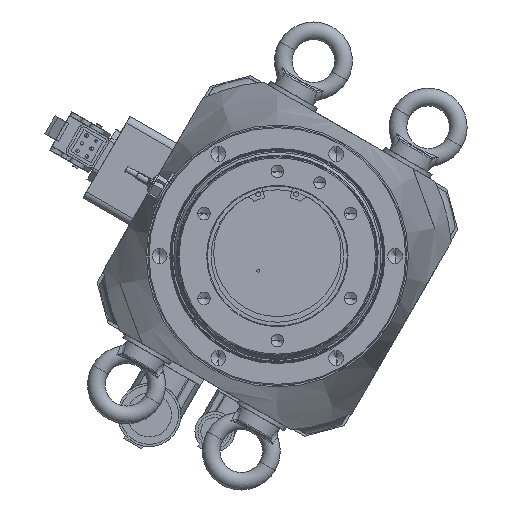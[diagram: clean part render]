
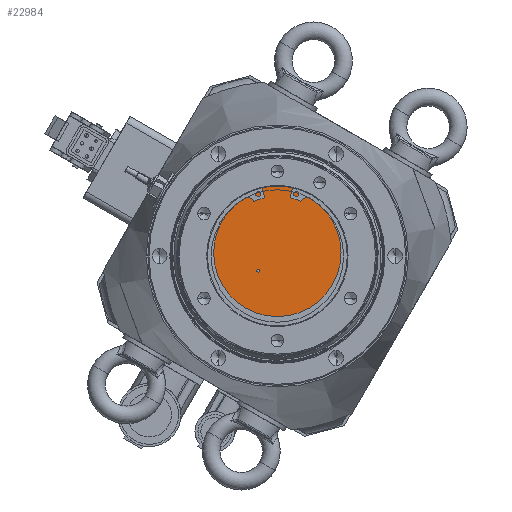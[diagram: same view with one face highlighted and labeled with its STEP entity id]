
A CAD part, front view. The second image highlights one B-rep face of the part: STEP entity #22984.
In plain terms, the highlighted planar face has unit normal (0, -1, 0).
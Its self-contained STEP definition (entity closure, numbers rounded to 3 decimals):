
#322 = DIRECTION ( 'NONE',  ( 0., 1., 0. ) ) ;
#3029 = ORIENTED_EDGE ( 'NONE', *, *, #16862, .T. ) ;
#3249 = VERTEX_POINT ( 'NONE', #22755 ) ;
#4009 = CARTESIAN_POINT ( 'NONE',  ( 55.209, -290.221, 181.909 ) ) ;
#4978 = EDGE_LOOP ( 'NONE', ( #26720, #41825 ) ) ;
#5352 = DIRECTION ( 'NONE',  ( 0., 1., 0. ) ) ;
#5875 = VERTEX_POINT ( 'NONE', #4009 ) ;
#7695 = VERTEX_POINT ( 'NONE', #48649 ) ;
#12411 = DIRECTION ( 'NONE',  ( 0., 0., 1. ) ) ;
#13088 = EDGE_CURVE ( 'NONE', #7695, #5875, #25204, .T. ) ;
#14626 = EDGE_CURVE ( 'NONE', #3249, #38106, #17434, .T. ) ;
#15623 = DIRECTION ( 'NONE',  ( 0., 1., 0. ) ) ;
#15711 = FACE_OUTER_BOUND ( 'NONE', #4978, .T. ) ;
#16862 = EDGE_CURVE ( 'NONE', #38106, #3249, #22626, .T. ) ;
#17434 = CIRCLE ( 'NONE', #47728, 1. ) ;
#17530 = AXIS2_PLACEMENT_3D ( 'NONE', #27366, #34913, #12411 ) ;
#19210 = DIRECTION ( 'NONE',  ( 0., 1., 0. ) ) ;
#22252 = CIRCLE ( 'NONE', #39559, 47.5 ) ;
#22626 = CIRCLE ( 'NONE', #24195, 1. ) ;
#22755 = CARTESIAN_POINT ( 'NONE',  ( 42.239, -290.221, 123.416 ) ) ;
#22762 = CARTESIAN_POINT ( 'NONE',  ( 42.239, -290.221, 124.416 ) ) ;
#22984 = ADVANCED_FACE ( 'NONE', ( #15711, #35688 ), #42328, .F. ) ;
#24195 = AXIS2_PLACEMENT_3D ( 'NONE', #41699, #19210, #45470 ) ;
#25204 = CIRCLE ( 'NONE', #42961, 47.5 ) ;
#26526 = DIRECTION ( 'NONE',  ( 0., 0., 1. ) ) ;
#26720 = ORIENTED_EDGE ( 'NONE', *, *, #13088, .F. ) ;
#27366 = CARTESIAN_POINT ( 'NONE',  ( 55.209, -290.221, 134.409 ) ) ;
#27863 = CARTESIAN_POINT ( 'NONE',  ( 55.209, -290.221, 134.409 ) ) ;
#29154 = EDGE_CURVE ( 'NONE', #5875, #7695, #22252, .T. ) ;
#31646 = DIRECTION ( 'NONE',  ( 0., 0., 1. ) ) ;
#34913 = DIRECTION ( 'NONE',  ( 0., 1., 0. ) ) ;
#35688 = FACE_BOUND ( 'NONE', #36023, .T. ) ;
#36023 = EDGE_LOOP ( 'NONE', ( #40448, #3029 ) ) ;
#38089 = CARTESIAN_POINT ( 'NONE',  ( 55.209, -290.221, 134.409 ) ) ;
#38106 = VERTEX_POINT ( 'NONE', #48100 ) ;
#39559 = AXIS2_PLACEMENT_3D ( 'NONE', #27863, #5352, #31646 ) ;
#40448 = ORIENTED_EDGE ( 'NONE', *, *, #14626, .T. ) ;
#41699 = CARTESIAN_POINT ( 'NONE',  ( 42.239, -290.221, 124.416 ) ) ;
#41825 = ORIENTED_EDGE ( 'NONE', *, *, #29154, .F. ) ;
#41906 = DIRECTION ( 'NONE',  ( 0., 0., 1. ) ) ;
#42328 = PLANE ( 'NONE',  #17530 ) ;
#42961 = AXIS2_PLACEMENT_3D ( 'NONE', #38089, #15623, #41906 ) ;
#45470 = DIRECTION ( 'NONE',  ( 0., 0., 1. ) ) ;
#47728 = AXIS2_PLACEMENT_3D ( 'NONE', #22762, #322, #26526 ) ;
#48100 = CARTESIAN_POINT ( 'NONE',  ( 42.239, -290.221, 125.416 ) ) ;
#48649 = CARTESIAN_POINT ( 'NONE',  ( 55.209, -290.221, 86.909 ) ) ;
